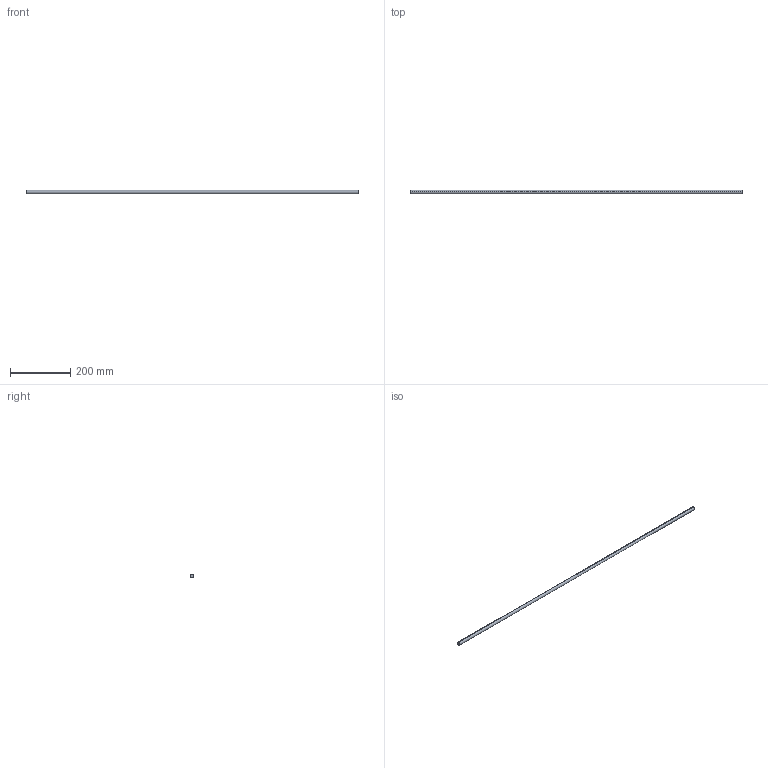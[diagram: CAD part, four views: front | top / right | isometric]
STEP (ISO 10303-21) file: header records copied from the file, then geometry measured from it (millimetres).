
FILE_DESCRIPTION (( 'STEP AP214' ), '1' );
FILE_NAME ('Querreling_2S-Rel_Edelstahl_1200.step', '2010-09-22T15:06:10', ( 'grass' ), ( '' ), 'SwSTEP 2.0', 'SolidWorks 2010', '' );
FILE_SCHEMA (( 'AUTOMOTIVE_DESIGN' ));
Length unit declared in the file: millimetre
Products named in the file (1): Querreling_2S-Rel_Edelstahl_1200
Bounding box: 1099 x 11 x 11 mm (x, y, z)
Volume: 104441.5 mm3; surface area: 38168.8 mm2
Topology: 1 solids, 1 shells, 4 faces, 6 edges, 4 vertices
Faces by surface type: cylinder 2, plane 2
Entity records: 128 total; most frequent: DIRECTION 20, CARTESIAN_POINT 15, ORIENTED_EDGE 12, AXIS2_PLACEMENT_3D 9, EDGE_CURVE 6, VERTEX_POINT 4, EDGE_LOOP 4, FACE_OUTER_BOUND 4
